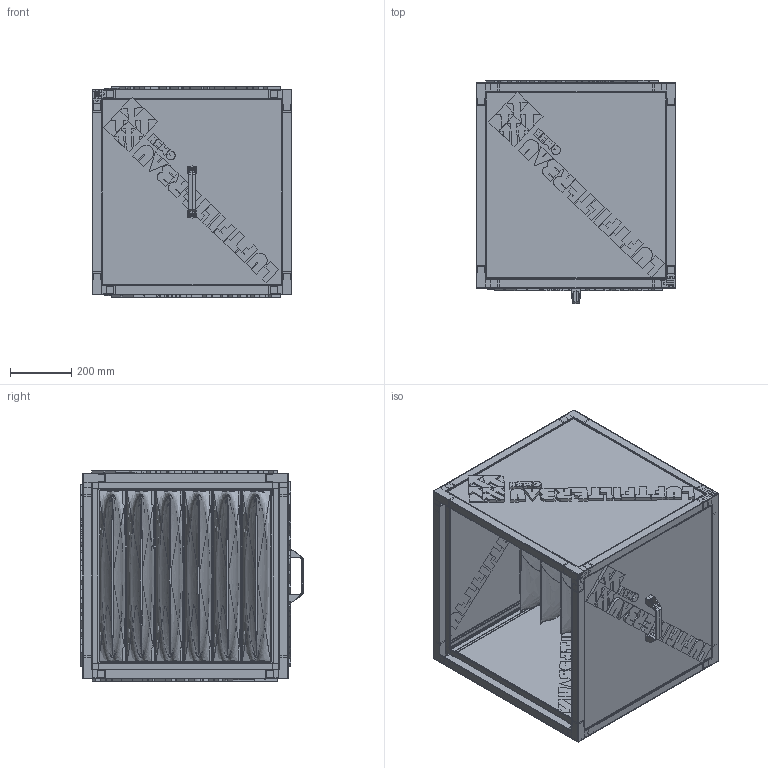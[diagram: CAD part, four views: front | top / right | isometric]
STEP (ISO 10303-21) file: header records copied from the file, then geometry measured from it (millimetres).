
FILE_DESCRIPTION(/* description */ (''),/* implementation_level */ '2;1');
FILE_NAME(/* name */ '\\hs-2000\Benutzer\00 Konstruktion\10_Inventor_Modelle\Inventor\HS-Vario Cat\72-VARIO-CAT-0000032\72-VARIO-CAT-0000032.stp',/* time_stamp */ '2018-07-27T10:51:51+02:00',/* author */ ('ap24'),/* organization */ (''),/* preprocessor_version */ 'ST-DEVELOPER v16.5',/* originating_system */ 'Autodesk Inventor 2017',/* authorisation */ '');
FILE_SCHEMA (('AUTOMOTIVE_DESIGN { 1 0 10303 214 3 1 1 }'));
Products named in the file (1): 72-VARIO-CAT-0000032
Bounding box: 650 x 728 x 686 mm (x, y, z)
Volume: 7146673 mm3; surface area: 10754640.8 mm2
Topology: 2 solids, 18 shells, 5966 faces, 15546 edges, 9394 vertices
Faces by surface type: plane 3723, cylinder 1483, sphere 296, bspline 238, torus 126, cone 100
Full cylindrical faces by diameter (mm): 2 x42, 3 x1, 3.1 x2, 6 x8, 6.2 x2, 6.5 x1, 7 x20, 13 x2
Entity records: 197797 total; most frequent: CARTESIAN_POINT 48297, ORIENTED_EDGE 30396, DIRECTION 29560, EDGE_CURVE 15182, LINE 10952, VECTOR 10952, AXIS2_PLACEMENT_3D 9304, VERTEX_POINT 9234
